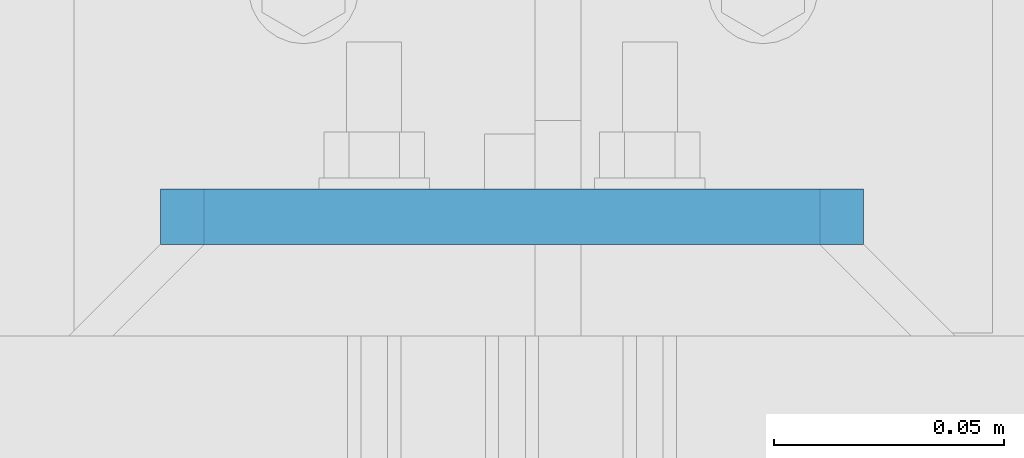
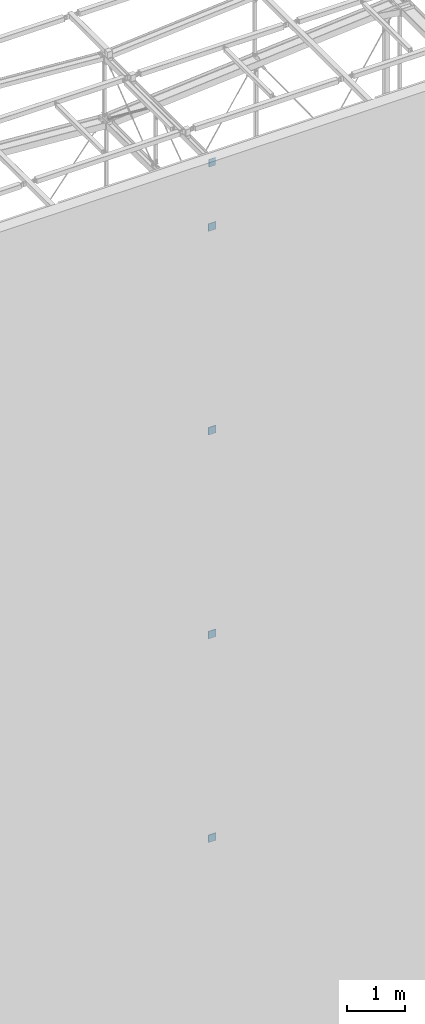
# One storey, part 66 of 271: 5 beams, 5 elements without a shape of their own.
"""IFC2X3 building model written with IfcOpenShell, lengths in millimetres."""

from ifc_helpers import new_model, si_unit, frame, origin_with_axes, origin_2d_with_axis, place, context, subcontext, project, spatial, rectangle, extrude, material, type_object, element, aggregate, save


model = new_model("IFC2X3")

# Units and contexts
model_context = context("Model", 3, precision=1e-05, world=origin_with_axes())
body_context = subcontext(model_context, "Body", "Model", "MODEL_VIEW")
ifc_project = project(units=[si_unit("LENGTHUNIT", "METRE", prefix="MILLI"), si_unit("AREAUNIT", "SQUARE_METRE"), si_unit("VOLUMEUNIT", "CUBIC_METRE"), si_unit("MASSUNIT", "GRAM", prefix="KILO"), si_unit("TIMEUNIT", "SECOND"), si_unit("PLANEANGLEUNIT", "RADIAN"), si_unit("SOLIDANGLEUNIT", "STERADIAN"), si_unit("THERMODYNAMICTEMPERATUREUNIT", "DEGREE_CELSIUS"), si_unit("LUMINOUSINTENSITYUNIT", "LUMEN")], contexts=[model_context])

# Site, building, storey
site_placement = place(None, origin_with_axes())
site = spatial("IfcSite", under=ifc_project, at=site_placement, Name="Undefined", CompositionType="ELEMENT")
building_placement = place(site_placement, origin_with_axes())
building = spatial("IfcBuilding", under=site, at=building_placement, Name="Undefined", CompositionType="ELEMENT")
storey_placement = place(building_placement, origin_with_axes())
storey = spatial("IfcBuildingStorey", under=building, at=storey_placement, Name="Undefined", CompositionType="ELEMENT", Elevation=0.0)

# Assembly, beam
assembly_1_placement = place(storey_placement, origin_with_axes())
assembly_1 = element("IfcElementAssembly", 1, at=assembly_1_placement, inside=storey, AssemblyPlace="NOTDEFINED", PredefinedType="RIGID_FRAME")
ifc_material = material(Name="STEEL/S355JR")
beam_type = type_object("IfcBeamType", Name="BL12*160", PredefinedType="NOTDEFINED")
beam_1_placement = place(assembly_1_placement, frame((6281.37568709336, 25.3249842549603, 20004.3499999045), z_axis=(0.0, 0.0, -1.0), x_axis=(1.0, 0.0, 0.0)))
beam_1 = element("IfcBeam", 2, at=beam_1_placement, type_object=beam_type, material=ifc_material, Name="BLACHA_PODSTAWY", ObjectType="BL12*160", context=body_context, shape_type="SweptSolid", body=[
    extrude(rectangle(XDim=12.0, YDim=160.0, at=origin_2d_with_axis()), frame((134.0, 0.0, 0.0), z_axis=(-1.0, 0.0, 1.38777878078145e-17), x_axis=(0.0, -1.0, 0.0)), (0.0, 0.0, 1.0), 134.0),
])
aggregate(assembly_1, [beam_1])

assembly_2_placement = place(storey_placement, origin_with_axes())
assembly_2 = element("IfcElementAssembly", 3, at=assembly_2_placement, inside=storey, AssemblyPlace="NOTDEFINED", PredefinedType="RIGID_FRAME")
beam_2_placement = place(assembly_2_placement, frame((6271.87568709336, 25.3249842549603, 18644.3499999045), z_axis=(0.0, 0.0, -1.0), x_axis=(1.0, 0.0, 0.0)))
beam_2 = element("IfcBeam", 4, at=beam_2_placement, type_object=beam_type, material=ifc_material, Name="BLACHA_PODSTAWY", ObjectType="BL12*160", context=body_context, shape_type="SweptSolid", body=[
    extrude(rectangle(XDim=12.0, YDim=160.0, at=origin_2d_with_axis()), frame((153.0, 0.0, 0.0), z_axis=(-1.0, 0.0, 1.38777878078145e-17), x_axis=(0.0, -1.0, 0.0)), (0.0, 0.0, 1.0), 153.0),
])
aggregate(assembly_2, [beam_2])

assembly_3_placement = place(storey_placement, origin_with_axes())
assembly_3 = element("IfcElementAssembly", 5, at=assembly_3_placement, inside=storey, AssemblyPlace="NOTDEFINED", PredefinedType="RIGID_FRAME")
beam_3_placement = place(assembly_3_placement, frame((6271.87568709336, 25.3249842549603, 5684.34999990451), z_axis=(0.0, 0.0, -1.0), x_axis=(1.0, 0.0, 0.0)))
beam_3 = element("IfcBeam", 6, at=beam_3_placement, type_object=beam_type, material=ifc_material, Name="BLACHA_PODSTAWY", ObjectType="BL12*160", context=body_context, shape_type="SweptSolid", body=[
    extrude(rectangle(XDim=12.0, YDim=160.0, at=origin_2d_with_axis()), frame((153.0, 0.0, 0.0), z_axis=(-1.0, 0.0, 1.38777878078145e-17), x_axis=(0.0, -1.0, 0.0)), (0.0, 0.0, 1.0), 153.0),
])
aggregate(assembly_3, [beam_3])

assembly_4_placement = place(storey_placement, origin_with_axes())
assembly_4 = element("IfcElementAssembly", 7, at=assembly_4_placement, inside=storey, AssemblyPlace="NOTDEFINED", PredefinedType="RIGID_FRAME")
beam_4_placement = place(assembly_4_placement, frame((6271.87568709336, 25.3249842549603, 10004.3499999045), z_axis=(0.0, 0.0, -1.0), x_axis=(1.0, 0.0, 0.0)))
beam_4 = element("IfcBeam", 8, at=beam_4_placement, type_object=beam_type, material=ifc_material, Name="BLACHA_PODSTAWY", ObjectType="BL12*160", context=body_context, shape_type="SweptSolid", body=[
    extrude(rectangle(XDim=12.0, YDim=160.0, at=origin_2d_with_axis()), frame((153.0, 0.0, 0.0), z_axis=(-1.0, 0.0, 1.38777878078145e-17), x_axis=(0.0, -1.0, 0.0)), (0.0, 0.0, 1.0), 153.0),
])
aggregate(assembly_4, [beam_4])

assembly_5_placement = place(storey_placement, origin_with_axes())
assembly_5 = element("IfcElementAssembly", 9, at=assembly_5_placement, inside=storey, AssemblyPlace="NOTDEFINED", PredefinedType="RIGID_FRAME")
beam_5_placement = place(assembly_5_placement, frame((6271.87568709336, 25.3249842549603, 14324.3499999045), z_axis=(0.0, 0.0, -1.0), x_axis=(1.0, 0.0, 0.0)))
beam_5 = element("IfcBeam", 10, at=beam_5_placement, type_object=beam_type, material=ifc_material, Name="BLACHA_PODSTAWY", ObjectType="BL12*160", context=body_context, shape_type="SweptSolid", body=[
    extrude(rectangle(XDim=12.0, YDim=160.0, at=origin_2d_with_axis()), frame((153.0, 0.0, 0.0), z_axis=(-1.0, 0.0, 1.38777878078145e-17), x_axis=(0.0, -1.0, 0.0)), (0.0, 0.0, 1.0), 153.0),
])
aggregate(assembly_5, [beam_5])

save(model, "model.ifc")
